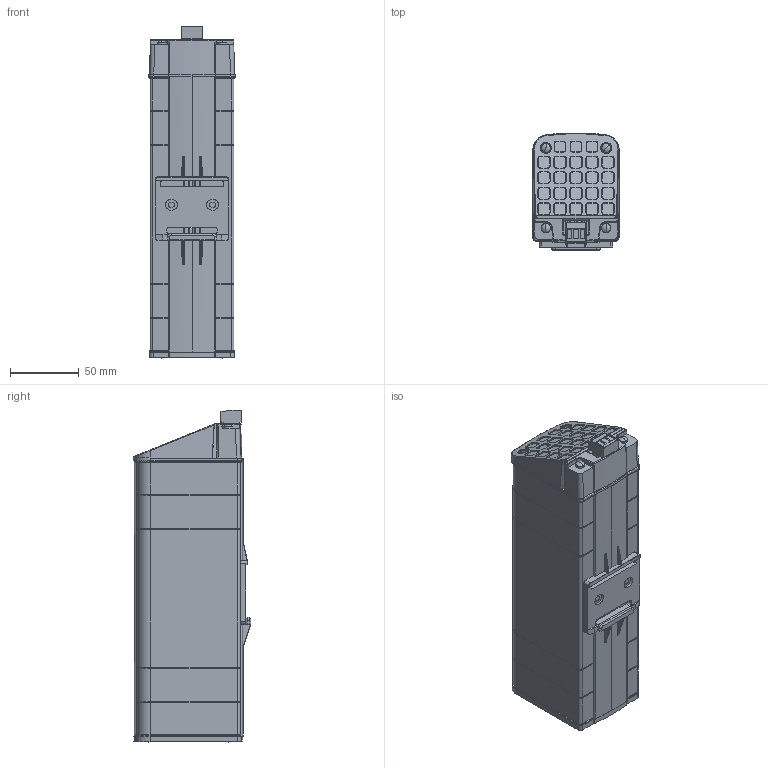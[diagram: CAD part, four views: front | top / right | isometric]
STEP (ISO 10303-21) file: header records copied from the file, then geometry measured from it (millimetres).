
FILE_DESCRIPTION (( 'STEP AP214' ), '1' );
FILE_NAME ('HTP150-1.STEP', '2026-01-28T13:40:08', ( '' ), ( '' ), 'SwSTEP 2.0', 'SolidWorks 2022', '' );
FILE_SCHEMA (( 'AUTOMOTIVE_DESIGN' ));
Length unit declared in the file: millimetre
Products named in the file (12): Placchetta posteriore_Placchetta posteriore L200 semplificata; DT-04537DSI_Default semplificata; Copertura PLASTICA_200 lato opposto semplificata; Vite ST3.5x38_semplificata; Placchetta frontale_Placchetta frontale L200+logo semplificata; DT-04539DSI_Semplificata; Vite ST3.5_semplificata; HTP150-1; Copertura PLASTICA_Lunghezza L 200mm semplificata; Tappo Plastico di estremità_tappo semplificato coperture plastiche; Profilo dissipatore deformato_Lung.200mm semplificato; 2EDGKF-5.0-03P-04_semplificata
Assembly tree (17 placements, depth 2):
  HTP150-1
    Profilo dissipatore deformato_Lung.200mm semplificato
    Tappo Plastico di estremità_tappo semplificato coperture plastiche
    Vite ST3.5_semplificata  x6
    Vite ST3.5x38_semplificata  x2
    DT-04539DSI_Semplificata
    DT-04537DSI_Default semplificata
    Copertura PLASTICA_Lunghezza L 200mm semplificata
    Copertura PLASTICA_200 lato opposto semplificata
    Placchetta frontale_Placchetta frontale L200+logo semplificata
    Placchetta posteriore_Placchetta posteriore L200 semplificata
    2EDGKF-5.0-03P-04_semplificata
Bounding box: 62.7 x 85.46 x 241.25 mm (x, y, z)
Volume: 1017223.9 mm3; surface area: 186923.7 mm2
Topology: 18 solids, 20 shells, 1689 faces, 4391 edges, 2802 vertices
Faces by surface type: plane 733, cylinder 451, cone 256, bspline 188, torus 39, sphere 22
Entity records: 60362 total; most frequent: CARTESIAN_POINT 18043, ORIENTED_EDGE 8638, DIRECTION 7599, EDGE_CURVE 4319, VERTEX_POINT 2760, AXIS2_PLACEMENT_3D 2583, VECTOR 2433, LINE 2433
